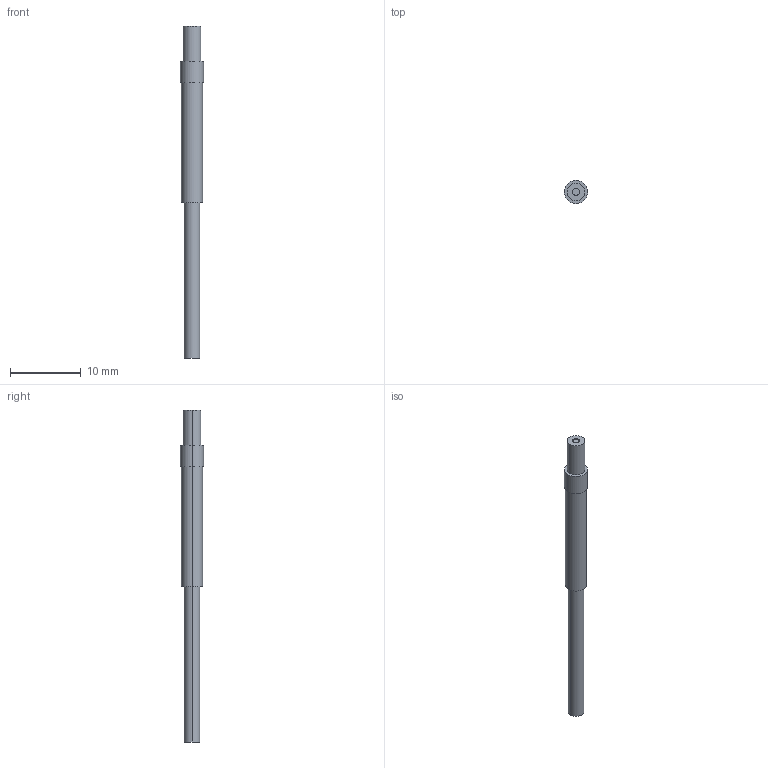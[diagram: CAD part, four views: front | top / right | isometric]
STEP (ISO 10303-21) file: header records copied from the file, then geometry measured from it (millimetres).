
FILE_DESCRIPTION (( 'STEP AP203' ), '1' );
FILE_NAME ('FT-SFM2.STEP', '2005-09-08T02:23:21', ( '' ), ( '' ), 'SwSTEP 2.0', 'SolidWorks 2004073', '' );
FILE_SCHEMA (( 'CONFIG_CONTROL_DESIGN' ));
Length unit declared in the file: millimetre
Products named in the file (1): FT-SFM2
Bounding box: 3.3 x 3.3 x 47 mm (x, y, z)
Volume: 253.9 mm3; surface area: 400.1 mm2
Topology: 1 solids, 1 shells, 16 faces, 30 edges, 20 vertices
Faces by surface type: cylinder 10, plane 6
Entity records: 491 total; most frequent: DIRECTION 84, CARTESIAN_POINT 67, ORIENTED_EDGE 60, AXIS2_PLACEMENT_3D 37, EDGE_CURVE 30, VERTEX_POINT 20, EDGE_LOOP 20, CIRCLE 20
